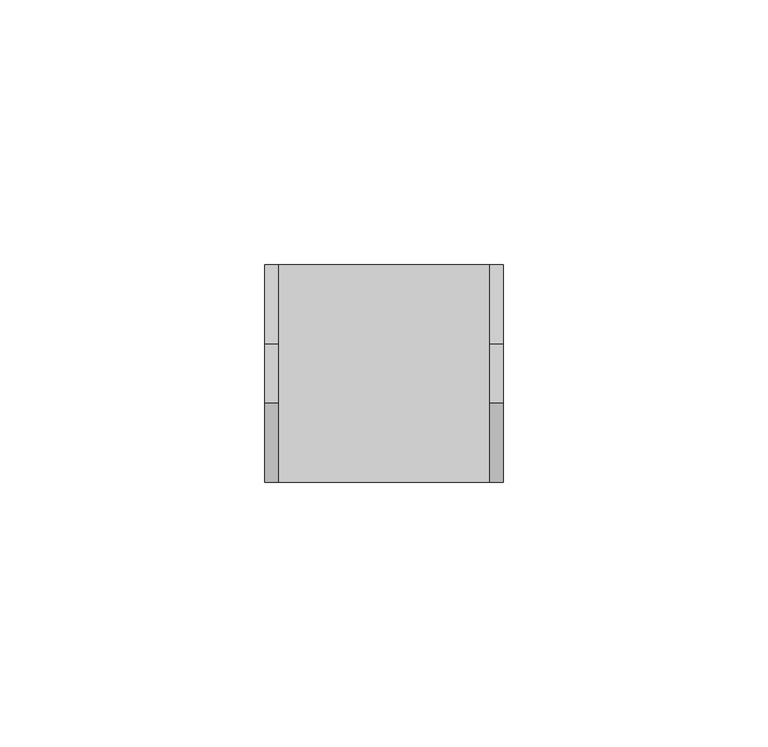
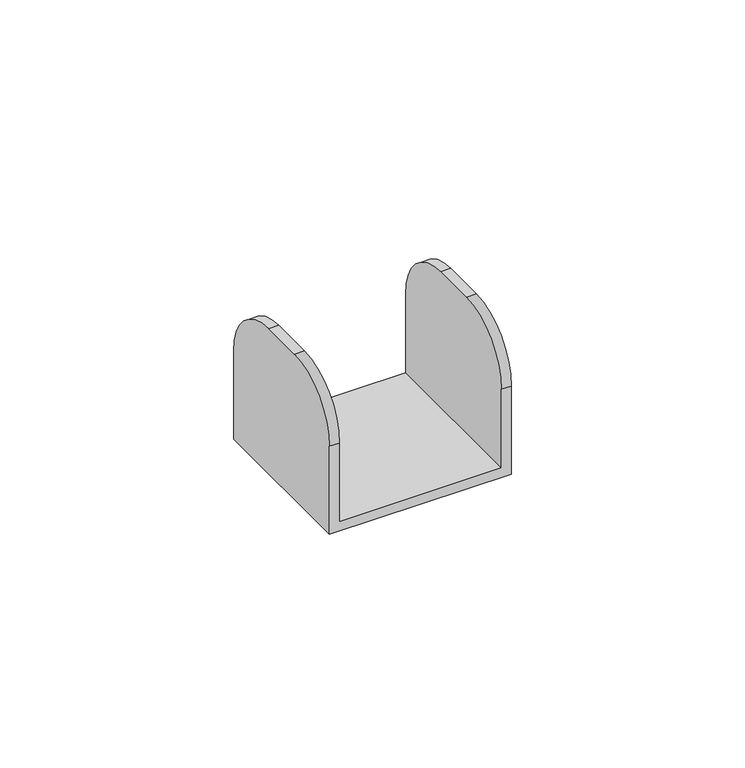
"""IFC4 building model written with IfcOpenShell, lengths in millimetres: proxy geometry, 4182CV-1_Variable set-Basorfix : Basorfix 4182CV-1 GC."""

from ifc_helpers import new_model, si_unit, frame, origin, place, context, project, spatial, circle_curve, source, transform, mapped, element, save
from ifc_brep_helpers import plane_surface, cylinder_surface, advanced_brep


def generic_models_3b9a10cf(model_context):
    return source(origin(), model_context, "Body", "AdvancedBrep", [
        advanced_brep(
        [(20.0, -20.5, 2.5), (-20.0, -20.5, 2.5), (-20.0, -20.5, 23.0), (-22.5, -20.5, 23.0), (-22.5, -20.5, 0.0), (22.5, -20.5, 0.0), (22.5, -20.5, 23.0), (20.0, -20.5, 23.0), (22.5, 20.5, 0.0), (-22.5, 20.5, 0.0), (-22.5, 20.5, 23.0), (-20.0, 20.5, 23.0), (-20.0, 20.5, 2.5), (20.0, 20.5, 2.5), (20.0, 20.5, 23.0), (22.5, 20.5, 23.0), (20.0, -5.5, 38.0), (20.0, 5.5, 38.0), (-20.0, 5.5, 38.0), (-20.0, -5.5, 38.0), (-22.5, 5.5, 38.0), (-22.5, -5.5, 38.0), (22.5, 5.5, 38.0), (22.5, -5.5, 38.0)],
        [
            (0, 1),
            (1, 2),
            (2, 3),
            (3, 4),
            (4, 5),
            (5, 6),
            (6, 7),
            (7, 0),
            (8, 9),
            (9, 10),
            (10, 11),
            (11, 12),
            (12, 13),
            (13, 14),
            (14, 15),
            (15, 8),
            (13, 0),
            (7, 16, circle_curve(frame((20.0, -5.5, 23.0), z_axis=(-1.0, 0.0, 0.0), x_axis=(0.0, 1.0, 0.0)), 15.0)),
            (16, 17),
            (17, 14, circle_curve(frame((20.0, 5.5, 23.0), z_axis=(-1.0, 0.0, 0.0), x_axis=(0.0, 1.0, 0.0)), 15.0)),
            (12, 1),
            (11, 18, circle_curve(frame((-20.0, 5.5, 23.0), z_axis=(1.0, 0.0, 0.0), x_axis=(0.0, 1.0, 0.0)), 15.0)),
            (18, 19),
            (19, 2, circle_curve(frame((-20.0, -5.5, 23.0), z_axis=(1.0, 0.0, 0.0), x_axis=(0.0, 1.0, 0.0)), 15.0)),
            (18, 20),
            (20, 21),
            (21, 19),
            (9, 4),
            (3, 21, circle_curve(frame((-22.5, -5.5, 23.0), z_axis=(-1.0, 0.0, 0.0), x_axis=(0.0, 1.0, 0.0)), 15.0)),
            (20, 10, circle_curve(frame((-22.5, 5.5, 23.0), z_axis=(-1.0, 0.0, 0.0), x_axis=(0.0, 1.0, 0.0)), 15.0)),
            (8, 5),
            (15, 22, circle_curve(frame((22.5, 5.5, 23.0), z_axis=(1.0, 0.0, 0.0), x_axis=(0.0, 1.0, 0.0)), 15.0)),
            (22, 23),
            (23, 6, circle_curve(frame((22.5, -5.5, 23.0), z_axis=(1.0, 0.0, 0.0), x_axis=(0.0, 1.0, 0.0)), 15.0)),
            (16, 23),
            (22, 17),
        ],
        [
            plane_surface(frame((20.0, -20.5, 38.0), z_axis=(0.0, -1.0, 0.0), x_axis=(0.0, 0.0, -1.0))),
            plane_surface(frame((20.0, 20.5, 38.0), z_axis=(0.0, 1.0, 0.0), x_axis=(0.0, 0.0, 1.0))),
            plane_surface(frame((20.0, -20.5, 38.0), z_axis=(-1.0, 0.0, 0.0), x_axis=(0.0, 1.0, 0.0))),
            plane_surface(frame((20.0, -20.5, 2.5), z_axis=(0.0, 0.0, 1.0), x_axis=(0.0, 1.0, 0.0))),
            plane_surface(frame((-20.0, -20.5, 2.5), z_axis=(1.0, 0.0, 0.0), x_axis=(0.0, 1.0, 0.0))),
            plane_surface(frame((-20.0, -20.5, 38.0), z_axis=(0.0, 0.0, 1.0), x_axis=(0.0, 1.0, 0.0))),
            plane_surface(frame((-22.5, -20.5, 38.0), z_axis=(-1.0, 0.0, 0.0), x_axis=(0.0, 1.0, 0.0))),
            plane_surface(frame((-22.5, -20.5, 0.0), z_axis=(0.0, 0.0, -1.0), x_axis=(0.0, 1.0, 0.0))),
            plane_surface(frame((22.5, -20.5, 0.0), z_axis=(1.0, 0.0, 0.0), x_axis=(0.0, 1.0, 0.0))),
            plane_surface(frame((22.5, -20.5, 38.0), z_axis=(0.0, 0.0, 1.0), x_axis=(0.0, 1.0, 0.0))),
            cylinder_surface(frame((-22.5, 5.5, 23.0), z_axis=(-1.0, 0.0, 0.0), x_axis=(0.0, 1.0, 0.0)), 15.0),
            cylinder_surface(frame((0.0, -5.5, 23.0), z_axis=(-1.0, 0.0, 0.0), x_axis=(0.0, 1.0, 0.0)), 15.0),
        ],
        [
            (0, [[1, 2, 3, 4, 5, 6, 7, 8]]),
            (1, [[9, 10, 11, 12, 13, 14, 15, 16]]),
            (2, [[17, -8, 18, 19, 20, -14]]),
            (3, [[-1, -17, -13, 21]]),
            (4, [[-21, -12, 22, 23, 24, -2]]),
            (5, [[-23, 25, 26, 27]]),
            (6, [[28, -4, 29, -26, 30, -10]]),
            (7, [[-5, -28, -9, 31]]),
            (8, [[-31, -16, 32, 33, 34, -6]]),
            (9, [[-19, 35, -33, 36]]),
            (10, [[-11, -30, -25, -22]]),
            (10, [[-15, -20, -36, -32]]),
            (11, [[-3, -24, -27, -29]]),
            (11, [[-7, -34, -35, -18]]),
        ],
    ),
    ])


if __name__ == "__main__":
    model = new_model("IFC4")
    model_context = context("Model", 3, world=origin())
    ifc_project = project(units=[si_unit("LENGTHUNIT", "METRE", prefix="MILLI")], contexts=[model_context])
    site = spatial("IfcSite", under=ifc_project)
    building = spatial("IfcBuilding", under=site)
    placement = place(None, origin())
    generic_models_shape = generic_models_3b9a10cf(model_context)
    element("IfcBuildingElementProxy", 1, Name="4182CV-1_Variable set-Basorfix : Basorfix 4182CV-1 GC", ObjectType="4182CV-1_Variable set-Basorfix : Basorfix 4182CV-1 GC", at=placement, inside=building, context=model_context, shape_type="MappedRepresentation", body=[
        mapped(generic_models_shape, transform((0.0, 0.0, 0.0), x_axis=(1.0, 0.0, 0.0), y_axis=(0.0, 1.0, 0.0), z_axis=(0.0, 0.0, 1.0))),
    ])
    save(model, "model.ifc")
